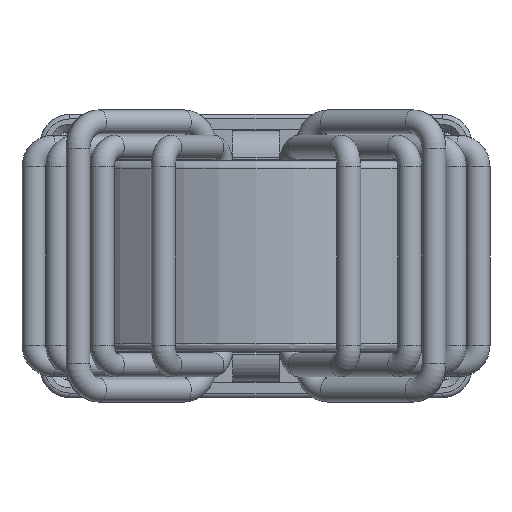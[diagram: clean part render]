
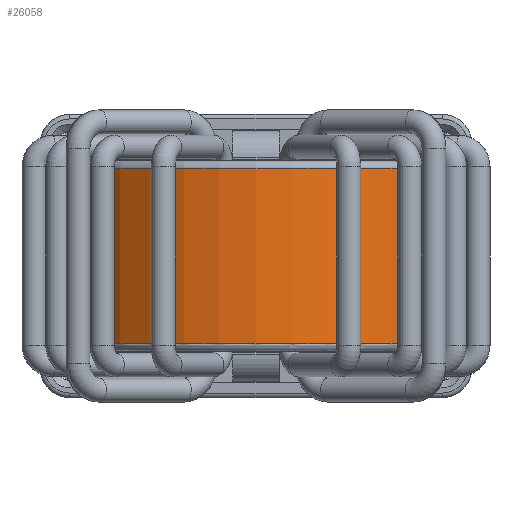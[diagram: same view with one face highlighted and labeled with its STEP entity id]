
A CAD part, front view. The second image highlights one B-rep face of the part: STEP entity #26058.
In plain terms, the highlighted cylindrical face has radius 14.2 mm (diameter 28.4 mm), a full revolution.
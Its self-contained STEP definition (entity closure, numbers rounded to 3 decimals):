
#549=FACE_BOUND('',#8707,.T.);
#550=FACE_BOUND('',#8708,.T.);
#3900=LINE('',#46953,#5818);
#3904=LINE('',#46965,#5822);
#3909=LINE('',#46978,#5827);
#3913=LINE('',#46988,#5831);
#3920=LINE('',#47027,#5838);
#5818=VECTOR('',#32633,10.);
#5822=VECTOR('',#32645,10.);
#5827=VECTOR('',#32658,10.);
#5831=VECTOR('',#32670,10.);
#5838=VECTOR('',#32731,14.2);
#6045=CYLINDRICAL_SURFACE('',#27619,14.2);
#7303=FACE_OUTER_BOUND('',#8706,.T.);
#8706=EDGE_LOOP('',(#22690,#22691,#22692,#22693,#22694));
#8707=EDGE_LOOP('',(#22695,#22696,#22697,#22698));
#8708=EDGE_LOOP('',(#22699,#22700,#22701,#22702));
#9382=CIRCLE('',#27602,14.2);
#9383=CIRCLE('',#27604,14.2);
#9384=CIRCLE('',#27606,14.2);
#9385=CIRCLE('',#27608,14.2);
#9390=CIRCLE('',#27617,14.2);
#9392=CIRCLE('',#27620,14.2);
#9393=CIRCLE('',#27621,14.2);
#11912=VERTEX_POINT('',#46946);
#11915=VERTEX_POINT('',#46951);
#11916=VERTEX_POINT('',#46958);
#11919=VERTEX_POINT('',#46963);
#11920=VERTEX_POINT('',#46971);
#11923=VERTEX_POINT('',#46976);
#11924=VERTEX_POINT('',#46984);
#11925=VERTEX_POINT('',#46986);
#11928=VERTEX_POINT('',#47020);
#11929=VERTEX_POINT('',#47024);
#11930=VERTEX_POINT('',#47025);
#15537=EDGE_CURVE('',#11915,#11912,#3900,.T.);
#15543=EDGE_CURVE('',#11919,#11916,#3904,.T.);
#15550=EDGE_CURVE('',#11923,#11920,#3909,.T.);
#15556=EDGE_CURVE('',#11925,#11924,#3913,.T.);
#15562=EDGE_CURVE('',#11925,#11920,#9382,.T.);
#15563=EDGE_CURVE('',#11923,#11924,#9383,.T.);
#15564=EDGE_CURVE('',#11919,#11912,#9384,.T.);
#15565=EDGE_CURVE('',#11915,#11916,#9385,.T.);
#15571=EDGE_CURVE('',#11928,#11928,#9390,.T.);
#15573=EDGE_CURVE('',#11929,#11930,#9392,.T.);
#15574=EDGE_CURVE('',#11929,#11928,#3920,.T.);
#15575=EDGE_CURVE('',#11930,#11929,#9393,.T.);
#22690=ORIENTED_EDGE('',*,*,#15573,.F.);
#22691=ORIENTED_EDGE('',*,*,#15574,.T.);
#22692=ORIENTED_EDGE('',*,*,#15571,.F.);
#22693=ORIENTED_EDGE('',*,*,#15574,.F.);
#22694=ORIENTED_EDGE('',*,*,#15575,.F.);
#22695=ORIENTED_EDGE('',*,*,#15565,.T.);
#22696=ORIENTED_EDGE('',*,*,#15543,.F.);
#22697=ORIENTED_EDGE('',*,*,#15564,.T.);
#22698=ORIENTED_EDGE('',*,*,#15537,.F.);
#22699=ORIENTED_EDGE('',*,*,#15563,.T.);
#22700=ORIENTED_EDGE('',*,*,#15556,.F.);
#22701=ORIENTED_EDGE('',*,*,#15562,.T.);
#22702=ORIENTED_EDGE('',*,*,#15550,.F.);
#26058=ADVANCED_FACE('',(#7303,#549,#550),#6045,.T.);
#27602=AXIS2_PLACEMENT_3D('',#47002,#32692,#32693);
#27604=AXIS2_PLACEMENT_3D('',#47004,#32696,#32697);
#27606=AXIS2_PLACEMENT_3D('',#47006,#32700,#32701);
#27608=AXIS2_PLACEMENT_3D('',#47008,#32704,#32705);
#27617=AXIS2_PLACEMENT_3D('',#47021,#32723,#32724);
#27619=AXIS2_PLACEMENT_3D('',#47023,#32727,#32728);
#27620=AXIS2_PLACEMENT_3D('',#47026,#32729,#32730);
#27621=AXIS2_PLACEMENT_3D('',#47028,#32732,#32733);
#32633=DIRECTION('',(0.,0.,-1.));
#32645=DIRECTION('',(0.,0.,1.));
#32658=DIRECTION('',(0.,0.,-1.));
#32670=DIRECTION('',(0.,0.,1.));
#32692=DIRECTION('center_axis',(0.,0.,
-1.));
#32693=DIRECTION('ref_axis',(0.,-1.,0.));
#32696=DIRECTION('center_axis',(0.,0.,
1.));
#32697=DIRECTION('ref_axis',(0.,-1.,0.));
#32700=DIRECTION('center_axis',(0.,0.,
-1.));
#32701=DIRECTION('ref_axis',(0.,-1.,0.));
#32704=DIRECTION('center_axis',(0.,0.,
1.));
#32705=DIRECTION('ref_axis',(0.,-1.,0.));
#32723=DIRECTION('center_axis',(0.,0.,
1.));
#32724=DIRECTION('ref_axis',(0.,-1.,0.));
#32727=DIRECTION('center_axis',(0.,0.,
-1.));
#32728=DIRECTION('ref_axis',(0.,-1.,0.));
#32729=DIRECTION('center_axis',(0.,0.,
-1.));
#32730=DIRECTION('ref_axis',(0.,-1.,0.));
#32731=DIRECTION('',(0.,0.,1.));
#32732=DIRECTION('center_axis',(0.,0.,
-1.));
#32733=DIRECTION('ref_axis',(0.,-1.,0.));
#46946=CARTESIAN_POINT('',(4.83,-3.497,-5.7));
#46951=CARTESIAN_POINT('',(4.83,-3.497,5.7));
#46953=CARTESIAN_POINT('',(4.83,-3.497,5.2));
#46958=CARTESIAN_POINT('',(2.898,-2.949,5.7));
#46963=CARTESIAN_POINT('',(2.898,-2.949,-5.7));
#46965=CARTESIAN_POINT('',(2.898,-2.949,5.2));
#46971=CARTESIAN_POINT('',(-2.898,-2.949,-5.7));
#46976=CARTESIAN_POINT('',(-2.898,-2.949,5.7));
#46978=CARTESIAN_POINT('',(-2.898,-2.949,5.2));
#46984=CARTESIAN_POINT('',(-4.83,-3.497,5.7));
#46986=CARTESIAN_POINT('',(-4.83,-3.497,-5.7));
#46988=CARTESIAN_POINT('',(-4.83,-3.497,5.2));
#47002=CARTESIAN_POINT('Origin',(0.,-16.85,-5.7));
#47004=CARTESIAN_POINT('Origin',(0.,-16.85,5.7));
#47006=CARTESIAN_POINT('Origin',(0.,-16.85,-5.7));
#47008=CARTESIAN_POINT('Origin',(0.,-16.85,5.7));
#47020=CARTESIAN_POINT('',(0.,-2.65,5.9));
#47021=CARTESIAN_POINT('Origin',(0.,-16.85,5.9));
#47023=CARTESIAN_POINT('Origin',(0.,-16.85,5.2));
#47024=CARTESIAN_POINT('',(0.,-2.65,-5.9));
#47025=CARTESIAN_POINT('',(0.,-31.05,-5.9));
#47026=CARTESIAN_POINT('Origin',(0.,-16.85,-5.9));
#47027=CARTESIAN_POINT('',(0.,-2.65,5.2));
#47028=CARTESIAN_POINT('Origin',(0.,-16.85,-5.9));
